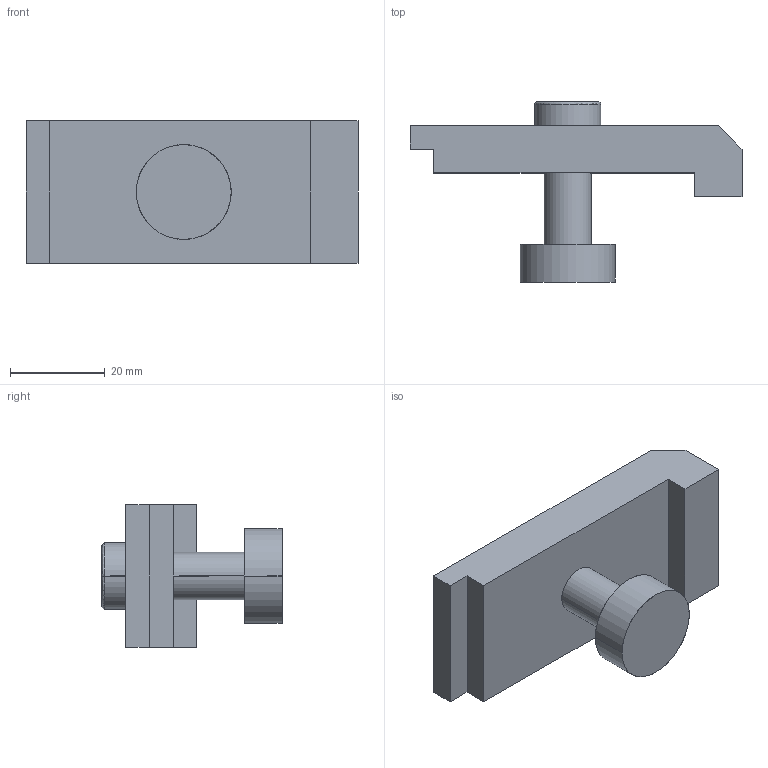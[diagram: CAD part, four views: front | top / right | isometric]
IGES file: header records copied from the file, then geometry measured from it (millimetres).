
Start section: SolidWorks IGES file using analytic representation for surfaces
Global section: file name: J:\Scolaire\BAC Pro\Epreuves professionnelles\E2\CD\Dossier Examinateurs\Dessins CN 5 axes\IGES\bride.IGS; native system: SolidWorks 2005 by SolidWorks Corporation; preprocessor: SolidWorks 2005 by SolidWorks Corporation; author: Famille Couzi; date: 091204.124120; units: millimetre
Bounding box: 70 x 38 x 30 mm (x, y, z)
Surface area: 8702.4 mm2 (no closed solid volume)
Topology: 0 solids, 0 shells, 32 faces, 386 edges, 386 vertices
Faces by surface type: bspline 24, revolution 8
